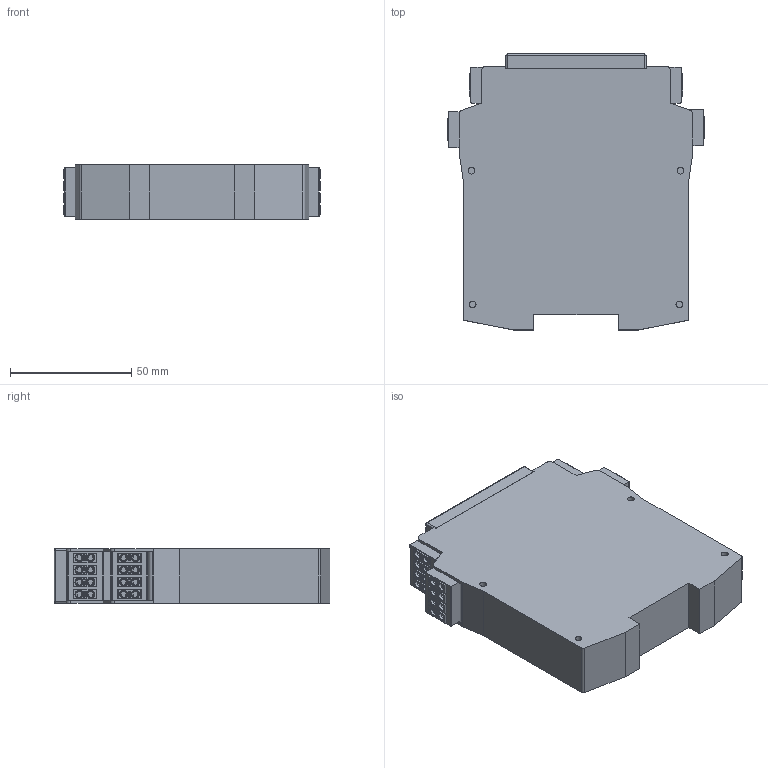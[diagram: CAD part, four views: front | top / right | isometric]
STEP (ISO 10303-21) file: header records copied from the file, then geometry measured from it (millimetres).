
FILE_DESCRIPTION(/* description */ (''),/* implementation_level */ '2;1');
FILE_NAME(/* name */ 'R1_188_3908_0_E.stp',/* time_stamp */ '2016-04-21T11:21:29+02:00',/* author */ (''),/* organization */ (''),/* preprocessor_version */ 'ST-DEVELOPER v15',/* originating_system */ 'SIEMENS PLM Software NX 9.0',/* authorisation */ '');
FILE_SCHEMA (('AP203_CONFIGURATION_CONTROLLED_3D_DESIGN_OF_MECHANICAL_PARTS_AND_ASSEMBLIES_MIM_LF { 1 0 10303 403 2 1 2}'));
Length unit declared in the file: millimetre
Products named in the file (1): R1_188_3908_0_E_AA
Bounding box: 106.5 x 114 x 22.5 mm (x, y, z)
Volume: 226482.4 mm3; surface area: 36930.4 mm2
Topology: 1 solids, 5 shells, 1063 faces, 2410 edges, 1452 vertices
Faces by surface type: plane 687, revolution 268, bspline 64, cylinder 40, sphere 4
Full cylindrical faces by diameter (mm): 2.8 x8, 5 x3, 6 x1
Entity records: 40672 total; most frequent: CARTESIAN_POINT 9438, DIRECTION 4836, ORIENTED_EDGE 4788, EDGE_CURVE 2394, LINE 1668, VECTOR 1668, VERTEX_POINT 1452, AXIS2_PLACEMENT_3D 1450
